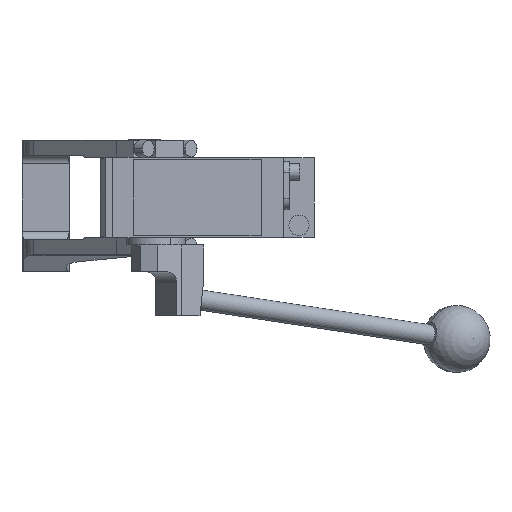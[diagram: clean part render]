
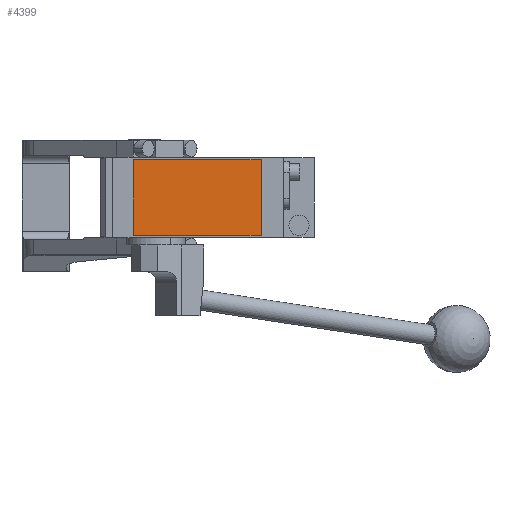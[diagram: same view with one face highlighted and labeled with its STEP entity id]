
A CAD part, front view. The second image highlights one B-rep face of the part: STEP entity #4399.
In plain terms, the highlighted planar face has unit normal (0, -1, 0).
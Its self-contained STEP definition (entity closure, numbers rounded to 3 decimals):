
#135 = EDGE_CURVE ( 'NONE', #3558, #12615, #12532, .T. ) ;
#1589 = VECTOR ( 'NONE', #3348, 1000. ) ;
#2086 = DIRECTION ( 'NONE',  ( 0., 0., -1. ) ) ;
#2510 = ORIENTED_EDGE ( 'NONE', *, *, #13666, .T. ) ;
#3001 = VECTOR ( 'NONE', #6961, 1000. ) ;
#3040 = CARTESIAN_POINT ( 'NONE',  ( 69., -280.5, -22.5 ) ) ;
#3348 = DIRECTION ( 'NONE',  ( 0., 0., 1. ) ) ;
#3558 = VERTEX_POINT ( 'NONE', #3040 ) ;
#3964 = CARTESIAN_POINT ( 'NONE',  ( -7., -280.5, -22.5 ) ) ;
#4076 = CARTESIAN_POINT ( 'NONE',  ( -7., -280.5, 22.5 ) ) ;
#4167 = ORIENTED_EDGE ( 'NONE', *, *, #135, .T. ) ;
#4371 = PLANE ( 'NONE',  #10174 ) ;
#4399 = ADVANCED_FACE ( 'NONE', ( #14765 ), #4371, .T. ) ;
#4750 = LINE ( 'NONE', #11678, #12143 ) ;
#4795 = VECTOR ( 'NONE', #14253, 1000. ) ;
#5758 = DIRECTION ( 'NONE',  ( 0., 0., -1. ) ) ;
#5848 = CARTESIAN_POINT ( 'NONE',  ( 69., -280.5, 22.5 ) ) ;
#6802 = DIRECTION ( 'NONE',  ( 0., -1., 0. ) ) ;
#6885 = LINE ( 'NONE', #14152, #3001 ) ;
#6961 = DIRECTION ( 'NONE',  ( 1., 0., 0. ) ) ;
#7397 = VERTEX_POINT ( 'NONE', #4076 ) ;
#7851 = ORIENTED_EDGE ( 'NONE', *, *, #10682, .T. ) ;
#8737 = ORIENTED_EDGE ( 'NONE', *, *, #11959, .T. ) ;
#9022 = CARTESIAN_POINT ( 'NONE',  ( 0., -280.5, 0. ) ) ;
#9494 = EDGE_LOOP ( 'NONE', ( #2510, #8737, #4167, #7851 ) ) ;
#9665 = CARTESIAN_POINT ( 'NONE',  ( -7., -280.5, 22.5 ) ) ;
#10174 = AXIS2_PLACEMENT_3D ( 'NONE', #9022, #6802, #2086 ) ;
#10682 = EDGE_CURVE ( 'NONE', #12615, #7397, #12210, .T. ) ;
#11678 = CARTESIAN_POINT ( 'NONE',  ( -7., -280.5, 22.5 ) ) ;
#11959 = EDGE_CURVE ( 'NONE', #12516, #3558, #6885, .T. ) ;
#12143 = VECTOR ( 'NONE', #5758, 1000. ) ;
#12210 = LINE ( 'NONE', #9665, #4795 ) ;
#12516 = VERTEX_POINT ( 'NONE', #3964 ) ;
#12532 = LINE ( 'NONE', #5848, #1589 ) ;
#12615 = VERTEX_POINT ( 'NONE', #13804 ) ;
#13666 = EDGE_CURVE ( 'NONE', #7397, #12516, #4750, .T. ) ;
#13804 = CARTESIAN_POINT ( 'NONE',  ( 69., -280.5, 22.5 ) ) ;
#14152 = CARTESIAN_POINT ( 'NONE',  ( -7., -280.5, -22.5 ) ) ;
#14253 = DIRECTION ( 'NONE',  ( -1., 0., 0. ) ) ;
#14765 = FACE_OUTER_BOUND ( 'NONE', #9494, .T. ) ;
